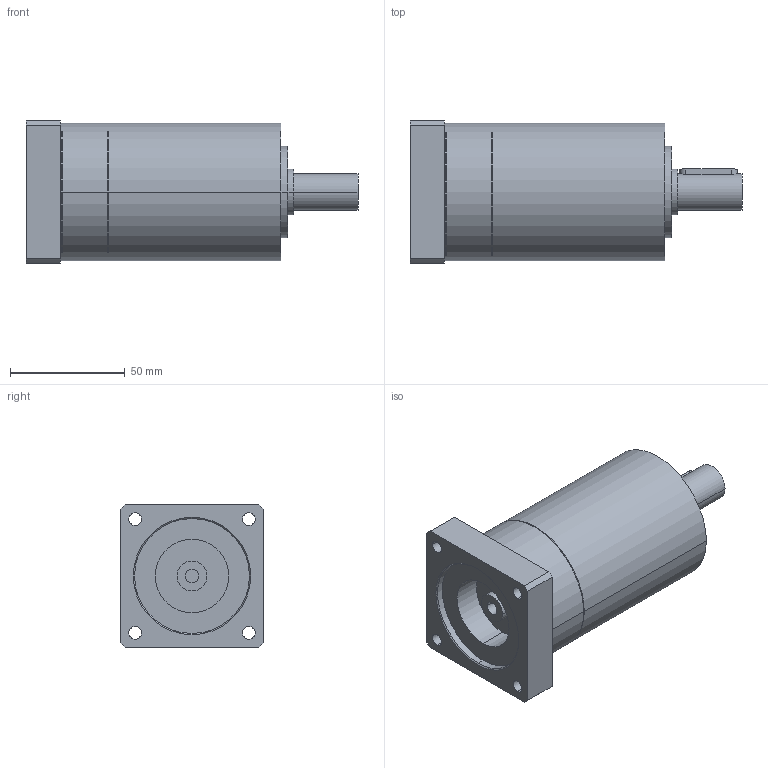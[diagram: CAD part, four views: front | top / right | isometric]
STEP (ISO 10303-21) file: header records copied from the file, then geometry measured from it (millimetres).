
FILE_DESCRIPTION(('CoCreate Modeling STEP Export'),'2;1');
FILE_NAME('GPR75_ig-9-12-16-20-24-30-36_16_B14_6_P23.stp','2014-08-25T16:04:51',(''),(''),'CoCreate Modeling STEP processor for AP214 (Solid Model)','CoCreate Modeling 16.00C 25-Feb-2009 (C) Parametric Technology GmbH','');
FILE_SCHEMA(('AUTOMOTIVE_DESIGN { 1 0 10303 214 1 1 1 1 }'));
Length unit declared in the file: millimetre
Products named in the file (2): GPR75_ig-9-12-16-20-24-30-36_16_B14_6_P23
Assembly tree (1 placements, depth 2):
  GPR75_ig-9-12-16-20-24-30-36_16_B14_6_P23
    GPR75_ig-9-12-16-20-24-30-36_16_B14_6_P23
Bounding box: 144.4 x 62 x 62 mm (x, y, z)
Volume: 320496.1 mm3; surface area: 35623.2 mm2
Topology: 1 solids, 1 shells, 75 faces, 198 edges, 138 vertices
Faces by surface type: cylinder 44, plane 23, cone 8
Entity records: 2044 total; most frequent: ORIENTED_EDGE 392, CARTESIAN_POINT 376, DIRECTION 278, EDGE_CURVE 196, VERTEX_POINT 138, AXIS2_PLACEMENT_3D 104, EDGE_LOOP 98, FACE_OUTER_BOUND 75
